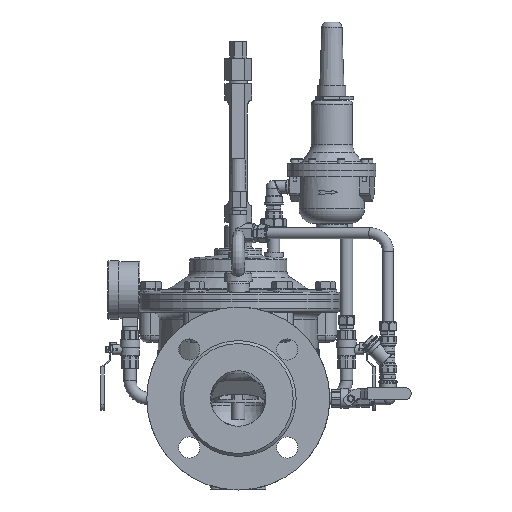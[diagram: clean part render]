
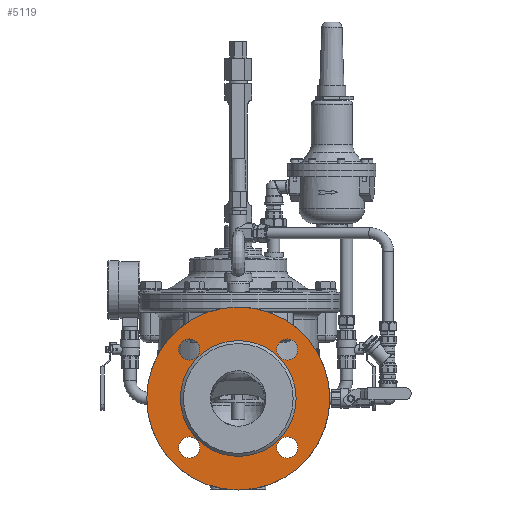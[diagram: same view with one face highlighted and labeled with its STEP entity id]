
A CAD part, left-side view. The second image highlights one B-rep face of the part: STEP entity #5119.
In plain terms, the highlighted planar face has unit normal (-1, 0, 0).
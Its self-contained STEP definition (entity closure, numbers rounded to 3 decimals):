
#5119=ADVANCED_FACE('',(#16960,#16962,#16964,#16966,#16968,#16970),#16972,.F.);
#16960=FACE_BOUND('',#16961,.T.);
#16961=EDGE_LOOP('',(#41131));
#16962=FACE_BOUND('',#16963,.T.);
#16963=EDGE_LOOP('',(#41132));
#16964=FACE_BOUND('',#16965,.T.);
#16965=EDGE_LOOP('',(#41133));
#16966=FACE_BOUND('',#16967,.T.);
#16967=EDGE_LOOP('',(#41134));
#16968=FACE_BOUND('',#16969,.T.);
#16969=EDGE_LOOP('',(#41135));
#16970=FACE_BOUND('',#16971,.T.);
#16971=EDGE_LOOP('',(#41136));
#16972=PLANE('',#16973);
#16973=AXIS2_PLACEMENT_3D('',#16974,#16975,#16976);
#16974=CARTESIAN_POINT('',(-112.286,0.,0.));
#16975=DIRECTION('',(1.,0.,0.));
#16976=DIRECTION('',(0.,1.,0.));
#41131=ORIENTED_EDGE('',*,*,#47916,.F.);
#41132=ORIENTED_EDGE('',*,*,#47923,.T.);
#41133=ORIENTED_EDGE('',*,*,#47924,.T.);
#41134=ORIENTED_EDGE('',*,*,#47925,.T.);
#41135=ORIENTED_EDGE('',*,*,#47971,.F.);
#41136=ORIENTED_EDGE('',*,*,#47926,.T.);
#47916=EDGE_CURVE('',#52471,#52471,#52472,.T.);
#47923=EDGE_CURVE('',#52481,#52481,#52482,.T.);
#47924=EDGE_CURVE('',#52483,#52483,#52484,.T.);
#47925=EDGE_CURVE('',#52485,#52485,#52486,.T.);
#47926=EDGE_CURVE('',#52487,#52487,#52488,.T.);
#47971=EDGE_CURVE('',#52564,#52564,#52565,.T.);
#52471=VERTEX_POINT('',#72071);
#52472=CIRCLE('',#72072,82.5);
#52481=VERTEX_POINT('',#72098);
#52482=CIRCLE('',#72099,9.5);
#52483=VERTEX_POINT('',#72103);
#52484=CIRCLE('',#72104,9.5);
#52485=VERTEX_POINT('',#72108);
#52486=CIRCLE('',#72109,9.5);
#52487=VERTEX_POINT('',#72113);
#52488=CIRCLE('',#72114,9.5);
#52564=VERTEX_POINT('',#72932);
#52565=CIRCLE('',#72933,52.214);
#72071=CARTESIAN_POINT('',(-112.286,82.5,0.));
#72072=AXIS2_PLACEMENT_3D('',#72073,#72074,#72075);
#72073=CARTESIAN_POINT('',(-112.286,0.,0.));
#72074=DIRECTION('',(1.,0.,0.));
#72075=DIRECTION('',(0.,1.,0.));
#72098=CARTESIAN_POINT('',(-112.286,-44.194,53.694));
#72099=AXIS2_PLACEMENT_3D('',#72100,#72101,#72102);
#72100=CARTESIAN_POINT('',(-112.286,-44.194,44.194));
#72101=DIRECTION('',(1.,0.,0.));
#72102=DIRECTION('',(0.,0.,1.));
#72103=CARTESIAN_POINT('',(-112.286,-53.694,-44.194));
#72104=AXIS2_PLACEMENT_3D('',#72105,#72106,#72107);
#72105=CARTESIAN_POINT('',(-112.286,-44.194,-44.194));
#72106=DIRECTION('',(1.,0.,0.));
#72107=DIRECTION('',(0.,-1.,0.));
#72108=CARTESIAN_POINT('',(-112.286,44.194,-53.694));
#72109=AXIS2_PLACEMENT_3D('',#72110,#72111,#72112);
#72110=CARTESIAN_POINT('',(-112.286,44.194,-44.194));
#72111=DIRECTION('',(1.,0.,0.));
#72112=DIRECTION('',(0.,0.,-1.));
#72113=CARTESIAN_POINT('',(-112.286,53.694,44.194));
#72114=AXIS2_PLACEMENT_3D('',#72115,#72116,#72117);
#72115=CARTESIAN_POINT('',(-112.286,44.194,44.194));
#72116=DIRECTION('',(1.,0.,0.));
#72117=DIRECTION('',(0.,1.,0.));
#72932=CARTESIAN_POINT('',(-112.286,-52.214,0.));
#72933=AXIS2_PLACEMENT_3D('',#72934,#72935,#72936);
#72934=CARTESIAN_POINT('',(-112.286,0.,0.));
#72935=DIRECTION('',(-1.,0.,0.));
#72936=DIRECTION('',(0.,-1.,0.));
